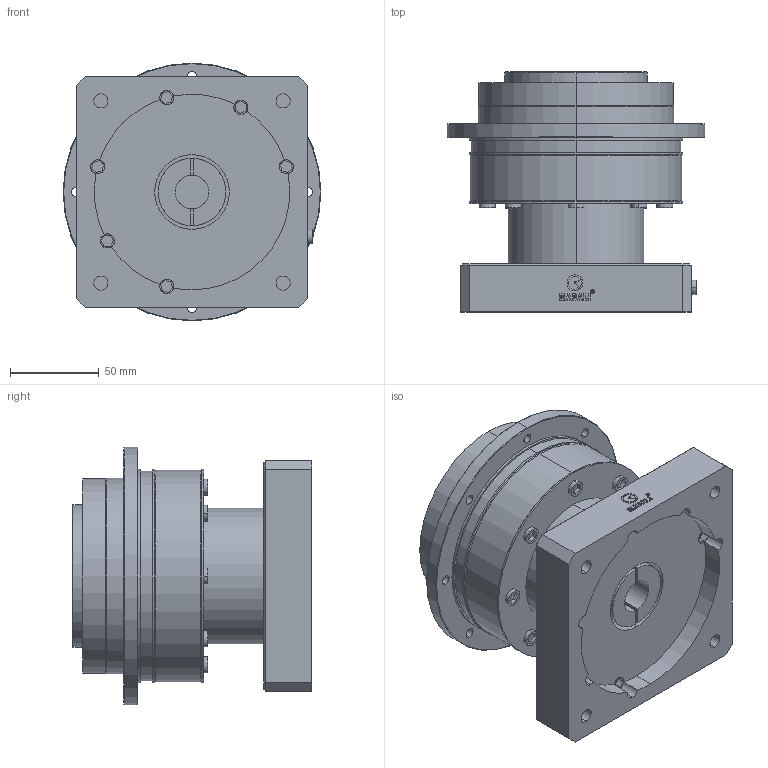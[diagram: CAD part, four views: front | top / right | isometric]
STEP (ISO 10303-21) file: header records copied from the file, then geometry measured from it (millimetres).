
FILE_DESCRIPTION (( 'STEP AP214' ), '1' );
FILE_NAME ('MAD-110-L1.step', '2020-06-26T06:51:41', ( '' ), ( '' ), 'SwSTEP 2.0', 'SolidWorks 2016', '' );
FILE_SCHEMA (( 'AUTOMOTIVE_DESIGN' ));
Length unit declared in the file: millimetre
Products named in the file (1): MAD-110-L1
Bounding box: 145 x 135 x 145 mm (x, y, z)
Volume: 1251206.3 mm3; surface area: 127428.4 mm2
Topology: 11 solids, 11 shells, 519 faces, 1320 edges, 860 vertices
Faces by surface type: plane 305, cylinder 119, bspline 63, cone 32
Entity records: 21695 total; most frequent: CARTESIAN_POINT 3503, ORIENTED_EDGE 2608, DIRECTION 2370, EDGE_CURVE 1304, VECTOR 900, LINE 900, VERTEX_POINT 860, AXIS2_PLACEMENT_3D 735
